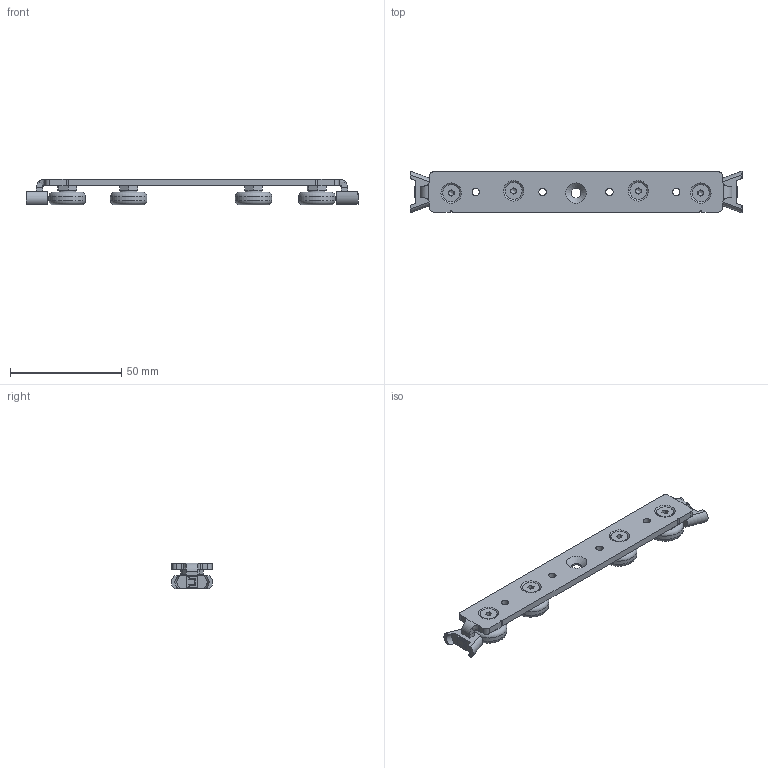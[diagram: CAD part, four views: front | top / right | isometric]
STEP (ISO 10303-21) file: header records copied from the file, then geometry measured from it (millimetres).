
FILE_DESCRIPTION (( 'STEP AP214' ), '1' );
FILE_NAME ('RLS22-4-A.STEP', '2022-02-01T12:42:06', ( '' ), ( '' ), 'SwSTEP 2.0', 'SolidWorks 2019', '' );
FILE_SCHEMA (( 'AUTOMOTIVE_DESIGN' ));
Length unit declared in the file: millimetre
Products named in the file (6): 39238; 42735; 40945; 29287_01; RLS22-4-A; DIN 7991 - M4 x 8 neu_DIN 7991 - M4 x 8 --- 8C
Assembly tree (11 placements, depth 2):
  RLS22-4-A
    29287_01
    40945  x2
    42735  x2
    39238  x2
    DIN 7991 - M4 x 8 neu_DIN 7991 - M4 x 8 --- 8C  x4
Bounding box: 149 x 18.61 x 11.65 mm (x, y, z)
Volume: 13235.6 mm3; surface area: 11170.4 mm2
Topology: 11 solids, 11 shells, 268 faces, 621 edges, 387 vertices
Faces by surface type: plane 176, cylinder 43, cone 25, bspline 12, torus 12
Full cylindrical faces by diameter (mm): 3.3 x8, 4 x4, 4.5 x5, 7.5 x4, 7.64 x4, 16.4 x4
Entity records: 4653 total; most frequent: CARTESIAN_POINT 970, DIRECTION 670, ORIENTED_EDGE 606, EDGE_CURVE 303, AXIS2_PLACEMENT_3D 237, VERTEX_POINT 211, EDGE_LOOP 206, LINE 196
